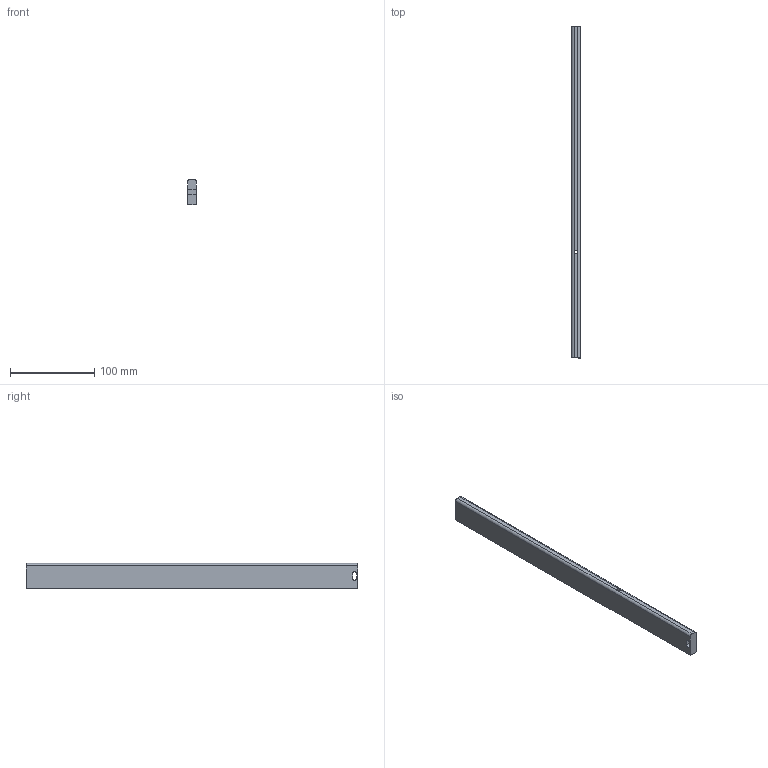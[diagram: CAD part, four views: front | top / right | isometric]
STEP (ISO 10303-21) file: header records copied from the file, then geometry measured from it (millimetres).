
FILE_DESCRIPTION (( 'STEP AP214' ), '1' );
FILE_NAME ('_Seitenreling_S760610200_RL395.step', '2010-09-06T14:51:43', ( 'grass' ), ( '' ), 'SwSTEP 2.0', 'SolidWorks 2010', '' );
FILE_SCHEMA (( 'AUTOMOTIVE_DESIGN' ));
Length unit declared in the file: millimetre
Products named in the file (1): _Seitenreling_S760610200_RL395
Bounding box: 10.5 x 395 x 30 mm (x, y, z)
Volume: 121511.5 mm3; surface area: 32319.1 mm2
Topology: 1 solids, 1 shells, 18 faces, 46 edges, 30 vertices
Faces by surface type: plane 10, cylinder 8
Entity records: 594 total; most frequent: DIRECTION 102, CARTESIAN_POINT 95, ORIENTED_EDGE 92, EDGE_CURVE 46, AXIS2_PLACEMENT_3D 37, VERTEX_POINT 30, LINE 28, VECTOR 28
